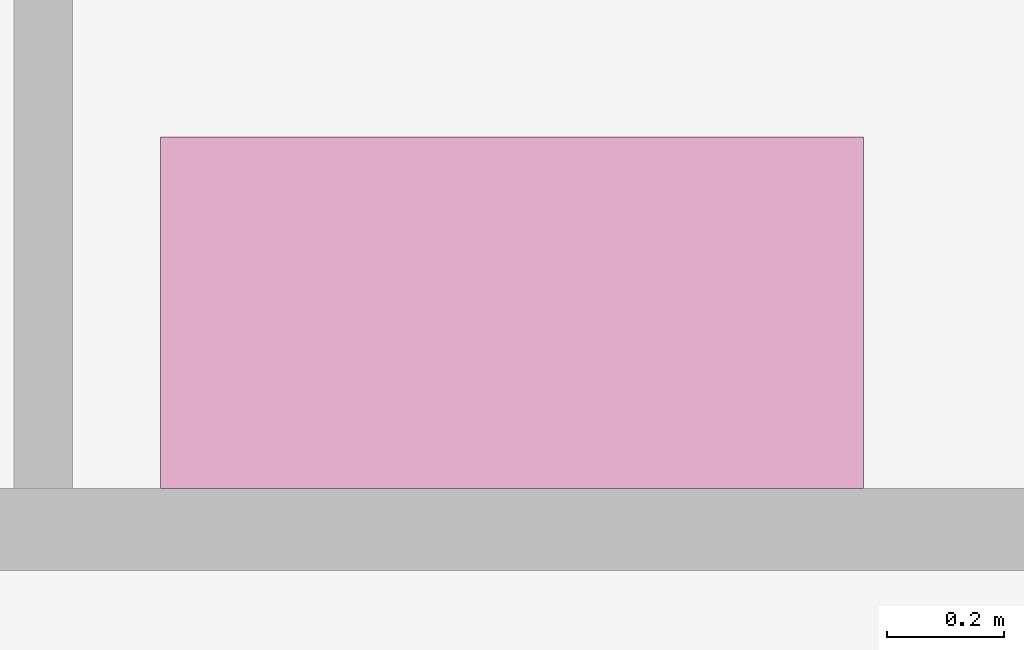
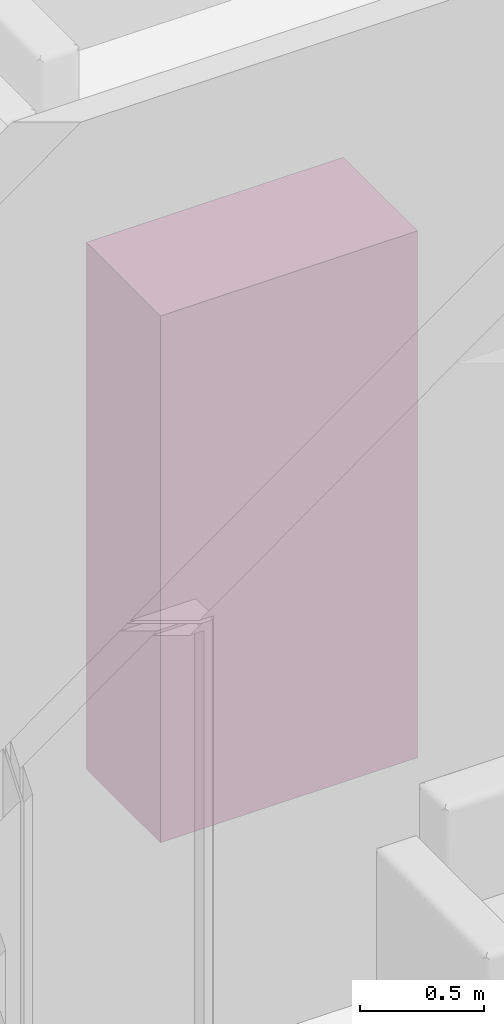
# One storey, part 61 of 72: 1 furniture element.
"""IFC4 building model written with IfcOpenShell, lengths in centimetres."""

from ifc_helpers import new_model, entity, si_unit, converted_unit, derived_unit, direction, frame, origin, place, context, subcontext, project, spatial, indexed_curve, outline, extrude, source, transform, mapped, material, type_object, type_shapes, element, save


model = new_model("IFC4")

# Units and contexts
model_context = context("Model", 3, precision=0.001, world=origin(), true_north=direction((6.123233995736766e-17, 1.0)))
body_context = subcontext(model_context, "Body", "Model", "MODEL_VIEW")
ifc_project = project(units=[si_unit("LENGTHUNIT", "METRE", prefix="CENTI"), si_unit("AREAUNIT", "SQUARE_METRE"), si_unit("VOLUMEUNIT", "CUBIC_METRE"), derived_unit("THERMALTRANSMITTANCEUNIT", [(si_unit("MASSUNIT", "GRAM", prefix="KILO"), 1), (si_unit("THERMODYNAMICTEMPERATUREUNIT", "KELVIN"), -1), (si_unit("TIMEUNIT", "SECOND"), -3)]), converted_unit("PLANEANGLEUNIT", "DEGREE", entity("IfcPlaneAngleMeasure", 0.017453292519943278), si_unit("PLANEANGLEUNIT", "RADIAN"), dimensions=[0, 0, 0, 0, 0, 0, 0]), derived_unit("MASSDENSITYUNIT", [(si_unit("MASSUNIT", "GRAM", prefix="KILO"), 1), (si_unit("LENGTHUNIT", "METRE"), -3)]), derived_unit("VAPORPERMEABILITYUNIT", [(si_unit("LENGTHUNIT", "METRE"), -1), (si_unit("TIMEUNIT", "SECOND"), 1)]), derived_unit("USERDEFINED", [(si_unit("MASSUNIT", "GRAM", prefix="KILO"), 1), (si_unit("TIMEUNIT", "SECOND"), -3), (si_unit("LENGTHUNIT", "METRE"), 3), (si_unit("ELECTRICCURRENTUNIT", "AMPERE"), -2)]), derived_unit("SPECIFICHEATCAPACITYUNIT", [(si_unit("THERMODYNAMICTEMPERATUREUNIT", "KELVIN"), -1), (si_unit("LENGTHUNIT", "METRE"), 2), (si_unit("TIMEUNIT", "SECOND"), -2)]), derived_unit("THERMALCONDUCTANCEUNIT", [(si_unit("MASSUNIT", "GRAM", prefix="KILO"), 1), (si_unit("THERMODYNAMICTEMPERATUREUNIT", "KELVIN"), -1), (si_unit("TIMEUNIT", "SECOND"), -3), (si_unit("LENGTHUNIT", "METRE"), 1)]), si_unit("PRESSUREUNIT", "PASCAL"), derived_unit("MODULUSOFELASTICITYUNIT", [(si_unit("MASSUNIT", "GRAM", prefix="KILO"), 1), (si_unit("LENGTHUNIT", "METRE"), -1), (si_unit("TIMEUNIT", "SECOND"), -2)]), derived_unit("THERMALEXPANSIONCOEFFICIENTUNIT", [(si_unit("THERMODYNAMICTEMPERATUREUNIT", "KELVIN"), -1)])], contexts=[model_context])

# Site, building, storey, space
site_placement = place(None, origin())
site = spatial("IfcSite", under=ifc_project, at=site_placement, Name="Default", CompositionType="ELEMENT")
building_placement = place(site_placement, origin())
building = spatial("IfcBuilding", under=site, at=building_placement, Name="IDS Escape Game Building", CompositionType="ELEMENT")
storey_placement = place(building_placement, frame((0.0, 0.0, 800.0)))
storey = spatial("IfcBuildingStorey", under=building, at=storey_placement, Name="02_Second Floor", CompositionType="ELEMENT", Elevation=800.0)
space_placement = place(storey_placement, origin())
space = spatial("IfcSpace", under=storey, at=space_placement, Name="92", CompositionType="ELEMENT", PredefinedType="NOTDEFINED")

# Furniture
ifc_material = material(Name="<Unnamed>")
furniture_type = type_object("IfcFurnitureType", Name="BPL_82.11_CA_UN_kast_gen_BERSnl:type 1", AssemblyPlace="NOTDEFINED", PredefinedType="NOTDEFINED", material=ifc_material)
shared_shape = source(origin(), body_context, "Body", "SweptSolid", [
    extrude(outline(indexed_curve([(-59.99999999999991, -29.999999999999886), (59.99999999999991, -29.999999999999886), (59.99999999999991, 29.999999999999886), (-59.99999999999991, 29.999999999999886), (-59.99999999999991, -29.999999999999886)], self_intersect=False)), frame((-60.0, -30.0, 0.0), z_axis=(0.0, 0.0, 1.0), x_axis=(-1.0, 0.0, 0.0)), (0.0, 0.0, 1.0), 260.0),
])
type_shapes(furniture_type, [shared_shape])
furniture_placement = place(space_placement, frame((297.0, 1987.0, 0.0)))
element("IfcFurniture", 1, at=furniture_placement, inside=space, type_object=furniture_type, material=ifc_material, Name="BPL_82.11_CA_UN_kast_gen_BERSnl:type 1", ObjectType="BPL_82.11_CA_UN_kast_gen_BERSnl:type 1", PredefinedType="NOTDEFINED", context=body_context, shape_type="MappedRepresentation", body=[
    mapped(shared_shape, transform((0.0, 0.0, 0.0), scale=1.0)),
])

save(model, "model.ifc")
